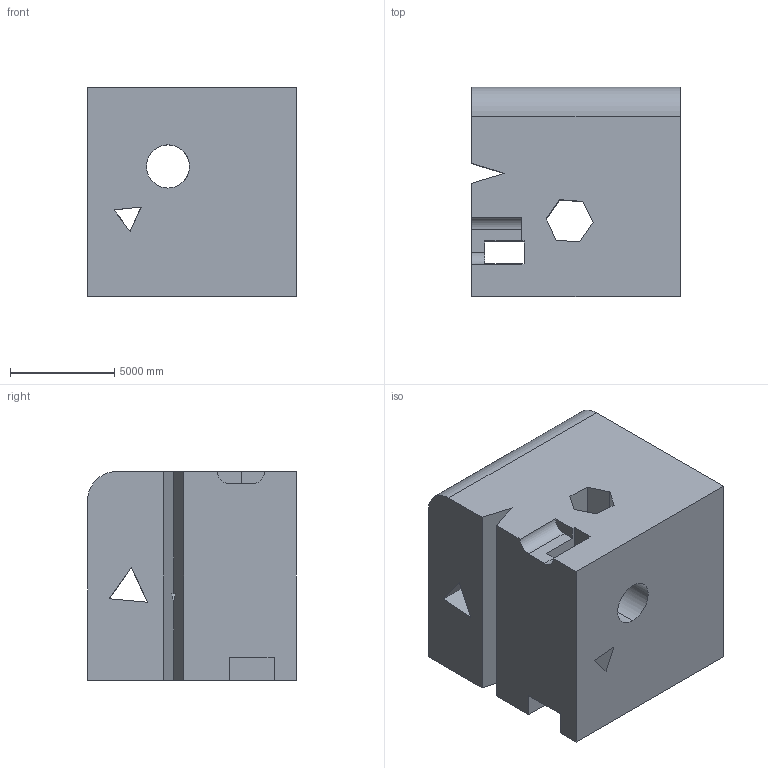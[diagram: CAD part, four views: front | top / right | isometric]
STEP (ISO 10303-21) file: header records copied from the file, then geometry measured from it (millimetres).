
FILE_DESCRIPTION (( 'STEP AP203' ), '1' );
FILE_NAME ('1916.STEP', '2022-08-23T09:26:57', ( 'user' ), ( '' ), 'SwSTEP 2.0', 'SolidWorks 2021', '' );
FILE_SCHEMA (( 'CONFIG_CONTROL_DESIGN' ));
Length unit declared in the file: centimetre
Products named in the file (1): 1916
Bounding box: 10000 x 10000 x 10000 mm (x, y, z)
Volume: 847763197204.6 mm3; surface area: 905405356.5 mm2
Topology: 1 solids, 1 shells, 51 faces, 183 edges, 122 vertices
Faces by surface type: plane 41, cylinder 10
Entity records: 2058 total; most frequent: CARTESIAN_POINT 408, ORIENTED_EDGE 366, DIRECTION 290, EDGE_CURVE 183, LINE 146, VECTOR 146, VERTEX_POINT 122, AXIS2_PLACEMENT_3D 72
